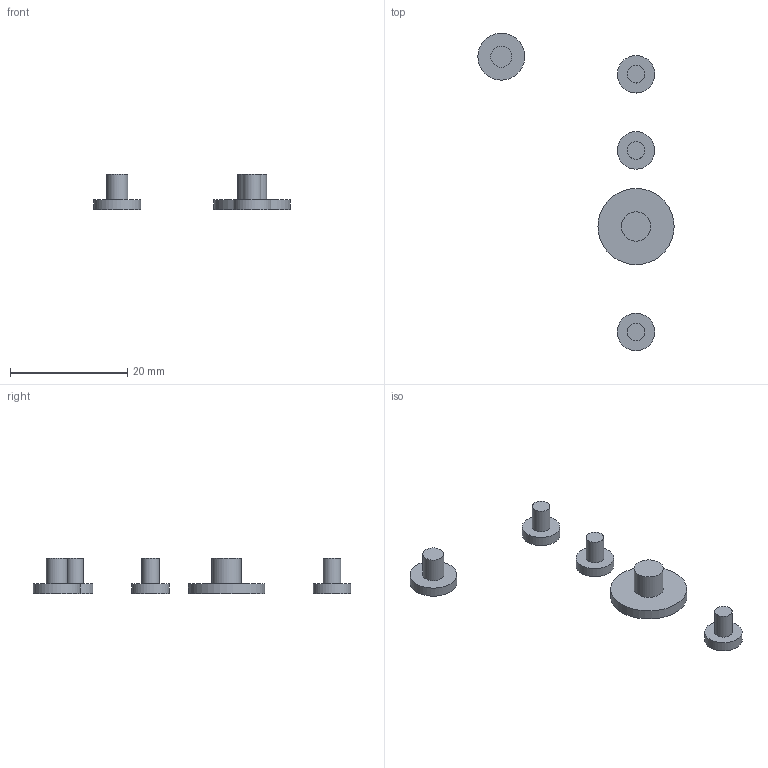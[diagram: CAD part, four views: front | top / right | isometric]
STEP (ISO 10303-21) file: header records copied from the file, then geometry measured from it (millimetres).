
FILE_DESCRIPTION(('Open CASCADE Model'),'2;1');
FILE_NAME('Open CASCADE Shape Model','2026-11-05T01:47:42',('Author'),( 'Open CASCADE'),'Open CASCADE STEP processor 7.8','Open CASCADE 7.8' ,'Unknown');
FILE_SCHEMA(('AUTOMOTIVE_DESIGN { 1 0 10303 214 1 1 1 1 }'));
Length unit declared in the file: millimetre
Products named in the file (6): Open CASCADE STEP translator 7.8 26; Open CASCADE STEP translator 7.8 26.1; Open CASCADE STEP translator 7.8 26.2; Open CASCADE STEP translator 7.8 26.3; Open CASCADE STEP translator 7.8 26.4; Open CASCADE STEP translator 7.8 26.5
Assembly tree (5 placements, depth 2):
  Open CASCADE STEP translator 7.8 26
    Open CASCADE STEP translator 7.8 26.1
    Open CASCADE STEP translator 7.8 26.2
    Open CASCADE STEP translator 7.8 26.3
    Open CASCADE STEP translator 7.8 26.4
    Open CASCADE STEP translator 7.8 26.5
Bounding box: 33.5 x 54.2 x 6 mm (x, y, z)
Volume: 694.5 mm3; surface area: 1011.5 mm2
Topology: 5 solids, 5 shells, 25 faces, 30 edges, 20 vertices
Faces by surface type: plane 15, cylinder 10
Full cylindrical faces by diameter (mm): 3 x3, 3.6 x1, 5 x1, 6.4 x3, 8 x1, 13 x1
Entity records: 1046 total; most frequent: CARTESIAN_POINT 261, DIRECTION 152, ORIENTED_EDGE 60, PCURVE 60, DEFINITIONAL_REPRESENTATION 60, AXIS2_PLACEMENT_3D 51, LINE 50, VECTOR 50
